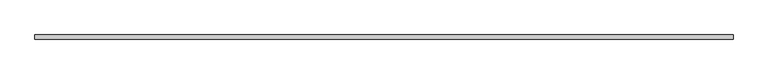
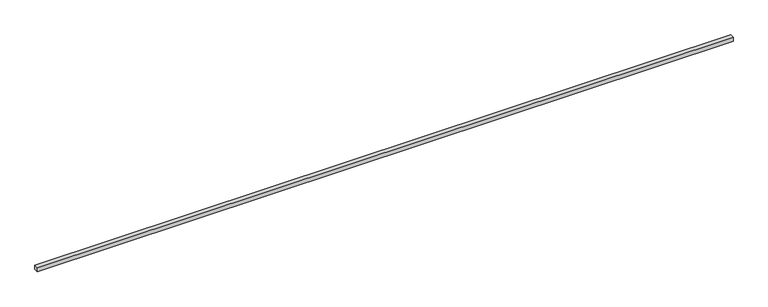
"""IFC4 building model written with IfcOpenShell, lengths in millimetres: light fixture geometry, AI_Luminaire_CONCEPT S_Linéaire : CONCEPTION S."""

from ifc_helpers import new_model, si_unit, frame, origin, place, context, project, spatial, polyline, outline, extrude, source, transform, mapped, element, save


def light_fixture_92202950(model_context):
    return source(origin(), model_context, "Body", "SweptSolid", [
        extrude(outline(polyline([(4660.6712523, 27.5), (4660.6712523, -27.5), (-4660.6712523, -27.5), (-4660.6712523, 27.5), (4660.6712523, 27.5)])), frame((0.0, 0.0, -56.0), z_axis=(0.0, 0.0, 1.0), x_axis=(1.0, 0.0, 0.0)), (0.0, 0.0, 1.0), 56.0),
    ])


if __name__ == "__main__":
    model = new_model("IFC4")
    model_context = context("Model", 3, world=origin())
    ifc_project = project(units=[si_unit("LENGTHUNIT", "METRE", prefix="MILLI")], contexts=[model_context])
    site = spatial("IfcSite", under=ifc_project)
    building = spatial("IfcBuilding", under=site)
    placement = place(None, origin())
    light_fixture_shape = light_fixture_92202950(model_context)
    element("IfcLightFixture", 1, ObjectType="AI_Luminaire_CONCEPT S_Linéaire : CONCEPTION S", at=placement, inside=building, context=model_context, shape_type="MappedRepresentation", body=[
        mapped(light_fixture_shape, transform((0.0, 0.0, 0.0), x_axis=(1.0, 0.0, 0.0), y_axis=(0.0, 1.0, 0.0), z_axis=(0.0, 0.0, 1.0))),
    ])
    save(model, "model.ifc")
